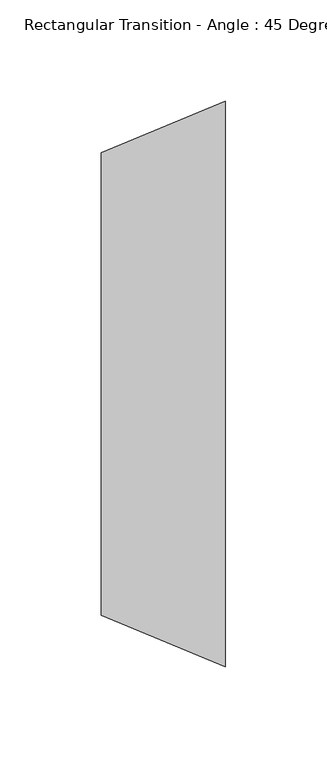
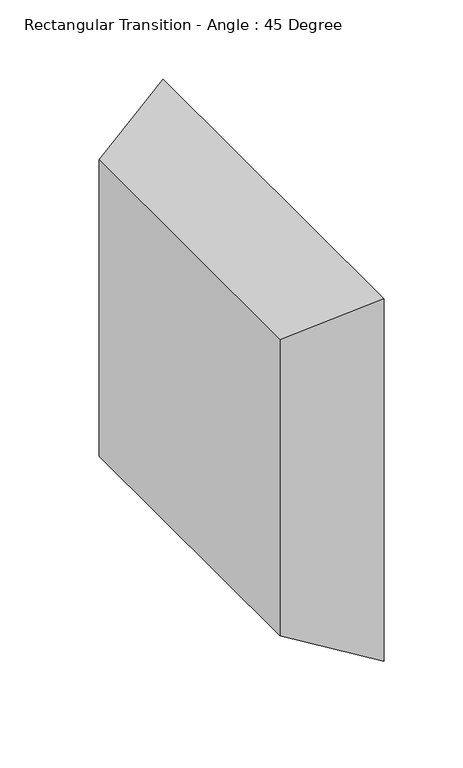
"""IFC4 building model written with IfcOpenShell, lengths in millimetres: duct fitting geometry, Rectangular Transition - Angle : 45 Degree."""

import ifcopenshell
import ifcopenshell.guid

model = None  # the IFC model being written
_history = None  # IfcOwnerHistory: only IFC2X3 demands one
_inside = {}  # id of a spatial element -> (the spatial element, [elements in it])
_under = {}  # id of a project, library or spatial element -> (it, [spatial elements below it])
_declared = {}  # id of a project -> (the project, [libraries it declares])
_typed = {}  # id of a type object -> (the type object, [elements of that type])
_made_of = {}  # id of a material, layer set ... -> (it, [elements and type objects made of it])


def new_model(schema):
    """Start an empty IFC model of exactly this schema.

    Asked for "IFC4X3", IfcOpenShell would pick the latest addendum, in which some entities
    have other attributes; the version numbers below select the first issue.
    IFC2X3 requires an IfcOwnerHistory on every rooted entity: one is made here for all.
    """
    global model, _history
    if schema == "IFC4X3":
        model = ifcopenshell.file(schema_version=(4, 3, 0, 0))
    else:
        model = ifcopenshell.file(schema=schema)
    _inside.clear()
    _under.clear()
    _declared.clear()
    _typed.clear()
    _made_of.clear()
    _history = None
    if model.schema == "IFC2X3":
        org = make("IfcOrganization", Name="unknown")
        user = make(
            "IfcPersonAndOrganization",
            ThePerson=make("IfcPerson", FamilyName="unknown"),
            TheOrganization=org,
        )
        app = make(
            "IfcApplication",
            ApplicationDeveloper=org,
            Version="unknown",
            ApplicationFullName="unknown",
            ApplicationIdentifier="unknown",
        )
        _history = make(
            "IfcOwnerHistory",
            OwningUser=user,
            OwningApplication=app,
            ChangeAction="ADDED",
            CreationDate=0,
        )
    return model


def make(cls, **values):
    """One entity of the class cls with the attributes given. An attribute that is None is left unset."""
    return model.create_entity(
        cls, **{name: value for name, value in values.items() if value is not None}
    )


def rooted(cls, **values):
    """An entity with a GlobalId (a new one), such as an element, a storey or a relation."""
    return make(cls, GlobalId=ifcopenshell.guid.new(), OwnerHistory=_history, **values)


def si_unit(unit_type, name, prefix=None):
    """IfcSIUnit, for example si_unit("LENGTHUNIT", "METRE", prefix="MILLI")."""
    return make("IfcSIUnit", UnitType=unit_type, Prefix=prefix, Name=name)


def assignment(units):
    """IfcUnitAssignment: the units of a project."""
    return None if units is None else make("IfcUnitAssignment", Units=units)


def point(xyz):
    """IfcCartesianPoint."""
    return None if xyz is None else make("IfcCartesianPoint", Coordinates=xyz)


def direction(xyz):
    """IfcDirection."""
    return None if xyz is None else make("IfcDirection", DirectionRatios=xyz)


def frame(location, z_axis=None, x_axis=None):
    """IfcAxis2Placement3D, a coordinate frame: its origin and axes. An axis left out is left unset."""
    return make(
        "IfcAxis2Placement3D",
        Location=point(location),
        Axis=direction(z_axis),
        RefDirection=direction(x_axis),
    )


def origin():
    """The frame at (0, 0, 0) with its axes left unset."""
    return frame((0.0, 0.0, 0.0))


def place(relative_to, where):
    """IfcLocalPlacement: puts the frame where relative to a parent placement (None: the world)."""
    return make(
        "IfcLocalPlacement", PlacementRelTo=relative_to, RelativePlacement=where
    )


def context(
    kind, dimensions, precision=None, world=None, true_north=None, identifier=None
):
    """IfcGeometricRepresentationContext, for example the 3D "Model" context."""
    return make(
        "IfcGeometricRepresentationContext",
        ContextIdentifier=identifier,
        ContextType=kind,
        CoordinateSpaceDimension=dimensions,
        Precision=precision,
        WorldCoordinateSystem=world,
        TrueNorth=true_north,
    )


def project(units=None, contexts=None):
    """IfcProject with its units and contexts."""
    return rooted(
        "IfcProject",
        Name="project",
        RepresentationContexts=contexts,
        UnitsInContext=assignment(units),
    )


def spatial(cls, under=None, at=None, **own):
    """A site, building, storey or space (cls), placed at a placement, below another one or the project."""
    s = rooted(cls, ObjectPlacement=at, **own)
    if under is not None:
        _under.setdefault(under.id(), (under, []))[1].append(s)
    return s


def faces_of(points, faces, orient=None, outer=None):
    """IfcFace entities. A face is a list of loops; a loop is a list of indices into points, from 0.

    orient and outer hold one flag for each loop. By default every Orientation is true, the
    first loop of a face is its IfcFaceOuterBound and the others are IfcFaceBound.
    """
    made = []
    for i, loops in enumerate(faces):
        bounds = []
        for j, loop in enumerate(loops):
            is_outer = j == 0 if outer is None else outer[i][j]
            bounds.append(
                make(
                    "IfcFaceOuterBound" if is_outer else "IfcFaceBound",
                    Bound=make("IfcPolyLoop", Polygon=[points[k] for k in loop]),
                    Orientation=True if orient is None else orient[i][j],
                )
            )
        made.append(make("IfcFace", Bounds=bounds))
    return made


def faceted_brep(points, faces, orient=None, outer=None, voids=None):
    """IfcFacetedBrep: a solid bounded by flat faces; with voids (closed shells), ...WithVoids."""
    shared = [point(p) for p in points]
    hull = make("IfcClosedShell", CfsFaces=faces_of(shared, faces, orient, outer))
    if voids is None:
        return make("IfcFacetedBrep", Outer=hull)
    return make(
        "IfcFacetedBrepWithVoids",
        Outer=hull,
        Voids=[
            make(cls, CfsFaces=faces_of(shared, fs, o, b)) for cls, fs, o, b in voids
        ],
    )


def shape(context_of_items, identifier, shape_type, items):
    """IfcShapeRepresentation: the items that make up one representation, for example the "Body"."""
    return make(
        "IfcShapeRepresentation",
        ContextOfItems=context_of_items,
        RepresentationIdentifier=identifier,
        RepresentationType=shape_type,
        Items=items,
    )


def source(mapping_origin, context_of_items, identifier, shape_type, items):
    """IfcRepresentationMap: a shape defined once, which mapped items show again and again."""
    return make(
        "IfcRepresentationMap",
        MappingOrigin=mapping_origin,
        MappedRepresentation=shape(context_of_items, identifier, shape_type, items),
    )


def transform(
    local_origin,
    x_axis=None,
    y_axis=None,
    z_axis=None,
    scale=None,
    scale2=None,
    scale3=None,
    uniform=True,
):
    """IfcCartesianTransformationOperator3D, or its non-uniform kind. x_axis, y_axis, z_axis: its Axis1, 2, 3."""
    if uniform:
        return make(
            "IfcCartesianTransformationOperator3D",
            Axis1=direction(x_axis),
            Axis2=direction(y_axis),
            LocalOrigin=point(local_origin),
            Scale=scale,
            Axis3=direction(z_axis),
        )
    return make(
        "IfcCartesianTransformationOperator3DnonUniform",
        Axis1=direction(x_axis),
        Axis2=direction(y_axis),
        LocalOrigin=point(local_origin),
        Scale=scale,
        Axis3=direction(z_axis),
        Scale2=scale2,
        Scale3=scale3,
    )


def mapped(mapping_source, mapping_target):
    """IfcMappedItem: shows the shape of a source again, moved by a transform."""
    return make(
        "IfcMappedItem", MappingSource=mapping_source, MappingTarget=mapping_target
    )


def made_of(thing, what):
    """Note that an element or type object is made of a material, layer set ...; save() writes the relation."""
    if what is not None:
        _made_of.setdefault(what.id(), (what, []))[1].append(thing)
    return thing


def element(
    cls,
    number,
    at=None,
    inside=None,
    cuts=None,
    type_object=None,
    material=None,
    context=None,
    identifier="Body",
    shape_type=None,
    held_by="IfcProductDefinitionShape",
    body=None,
    shapes=None,
    **own,
):
    """One element of the class cls, such as IfcWall. Its Tag is "e" and its number.

    at: its placement. inside: the storey or other place that contains it. cuts: it is an
    opening in that element (IfcRelVoidsElement). A single representation is given by context,
    identifier, shape_type and body (its items); several are given by shapes. held_by: the class
    of the entity that holds the representations. save() writes the other relations.
    """
    e = rooted(cls, Tag="e%d" % number, ObjectPlacement=at, **own)
    if body is not None:
        shapes = [shape(context, identifier, shape_type, body)]
    if shapes is not None:
        e.Representation = make(held_by, Representations=shapes)
    if inside is not None:
        _inside.setdefault(inside.id(), (inside, []))[1].append(e)
    if cuts is not None:
        rooted(
            "IfcRelVoidsElement", RelatingBuildingElement=cuts, RelatedOpeningElement=e
        )
    if type_object is not None:
        _typed.setdefault(type_object.id(), (type_object, []))[1].append(e)
    return made_of(e, material)


def aggregate(whole, parts):
    """IfcRelAggregates: a whole, such as a stair, and the parts it consists of."""
    return rooted("IfcRelAggregates", RelatingObject=whole, RelatedObjects=parts)


def save(model, path):
    """Write the relations noted so far, then the file.

    IfcRelAggregates (storeys below a building ...), IfcRelContainedInSpatialStructure (elements
    in a storey), IfcRelDefinesByType, IfcRelAssociatesMaterial and IfcRelDeclares: one each for
    every whole, place, type object, material and project.
    """
    for whole, parts in _under.values():
        aggregate(whole, parts)
    for where, things in _inside.values():
        rooted(
            "IfcRelContainedInSpatialStructure",
            RelatedElements=things,
            RelatingStructure=where,
        )
    for kind, things in _typed.values():
        rooted("IfcRelDefinesByType", RelatedObjects=things, RelatingType=kind)
    for what, things in _made_of.values():
        rooted("IfcRelAssociatesMaterial", RelatedObjects=things, RelatingMaterial=what)
    for by, libraries in _declared.values():
        rooted("IfcRelDeclares", RelatingContext=by, RelatedDefinitions=libraries)
    model.write(path)


def rectangular_transition_angle_45_degree_7070cd09(model_context):
    return source(origin(), model_context, "Body", "Brep", [
        faceted_brep([(61.3210245, -139.7, 139.7), (61.3210245, -139.7, -139.7), (61.3210245, 139.7, -139.7), (61.3210245, 139.7, 139.7), (0.0, -114.3, 114.3), (0.0, 114.3, 114.3), (0.0, 114.3, -114.3), (0.0, -114.3, -114.3)], [[[0, 1, 2, 3]], [[4, 5, 6, 7]], [[4, 7, 1, 0]], [[7, 6, 2, 1]], [[6, 5, 3, 2]], [[5, 4, 0, 3]]]),
    ])


if __name__ == "__main__":
    model = new_model("IFC4")
    model_context = context("Model", 3, world=origin())
    ifc_project = project(units=[si_unit("LENGTHUNIT", "METRE", prefix="MILLI")], contexts=[model_context])
    site = spatial("IfcSite", under=ifc_project)
    building = spatial("IfcBuilding", under=site)
    placement = place(None, origin())
    rectangular_transition_angle_45_degree_shape = rectangular_transition_angle_45_degree_7070cd09(model_context)
    element("IfcDuctFitting", 1, ObjectType="Rectangular Transition - Angle : 45 Degree", at=placement, inside=building, context=model_context, shape_type="MappedRepresentation", body=[
        mapped(rectangular_transition_angle_45_degree_shape, transform((0.0, 0.0, 0.0), x_axis=(1.0, 0.0, 0.0), y_axis=(0.0, 1.0, 0.0), z_axis=(0.0, 0.0, 1.0))),
    ])
    save(model, "model.ifc")
